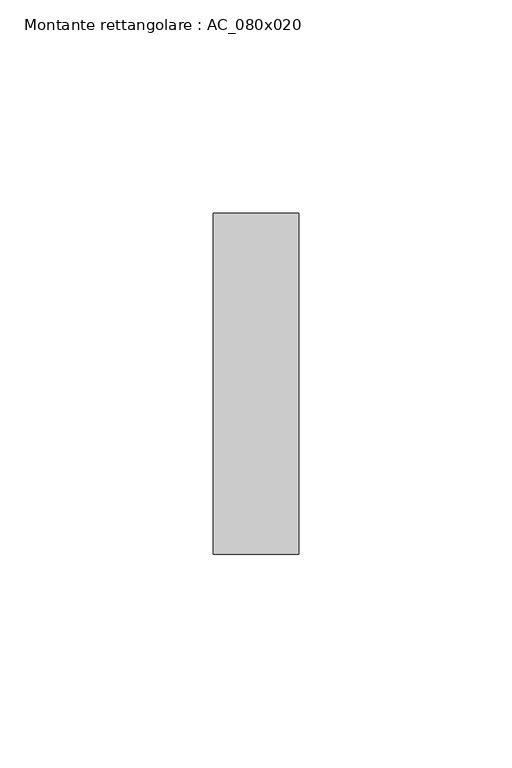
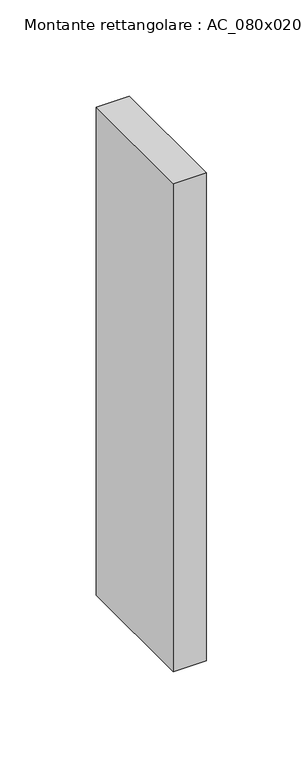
"""IFC4 building model written with IfcOpenShell, lengths in millimetres: member geometry, Montante rettangolare : AC_080x020."""

from ifc_helpers import new_model, si_unit, frame, origin, place, context, project, spatial, polyline, outline, extrude, source, transform, mapped, element, save


def montante_rettangolare_ac_080x020_d0b7e222(model_context):
    return source(origin(), model_context, "Body", "SweptSolid", [
        extrude(outline(polyline([(0.0, 40.0), (0.0, -40.0), (-20.0, -40.0), (-20.0, 40.0), (0.0, 40.0)])), frame((0.0, 0.0, -310.0), z_axis=(0.0, 0.0, 1.0), x_axis=(1.0, 0.0, 0.0)), (0.0, 0.0, 1.0), 310.0),
    ])


if __name__ == "__main__":
    model = new_model("IFC4")
    model_context = context("Model", 3, world=origin())
    ifc_project = project(units=[si_unit("LENGTHUNIT", "METRE", prefix="MILLI")], contexts=[model_context])
    site = spatial("IfcSite", under=ifc_project)
    building = spatial("IfcBuilding", under=site)
    placement = place(None, origin())
    montante_rettangolare_ac_080x020_shape = montante_rettangolare_ac_080x020_d0b7e222(model_context)
    element("IfcMember", 1, ObjectType="Montante rettangolare : AC_080x020", at=placement, inside=building, context=model_context, shape_type="MappedRepresentation", body=[
        mapped(montante_rettangolare_ac_080x020_shape, transform((0.0, 0.0, 0.0), x_axis=(1.0, 0.0, 0.0), y_axis=(0.0, 1.0, 0.0), z_axis=(0.0, 0.0, 1.0))),
    ])
    save(model, "model.ifc")
